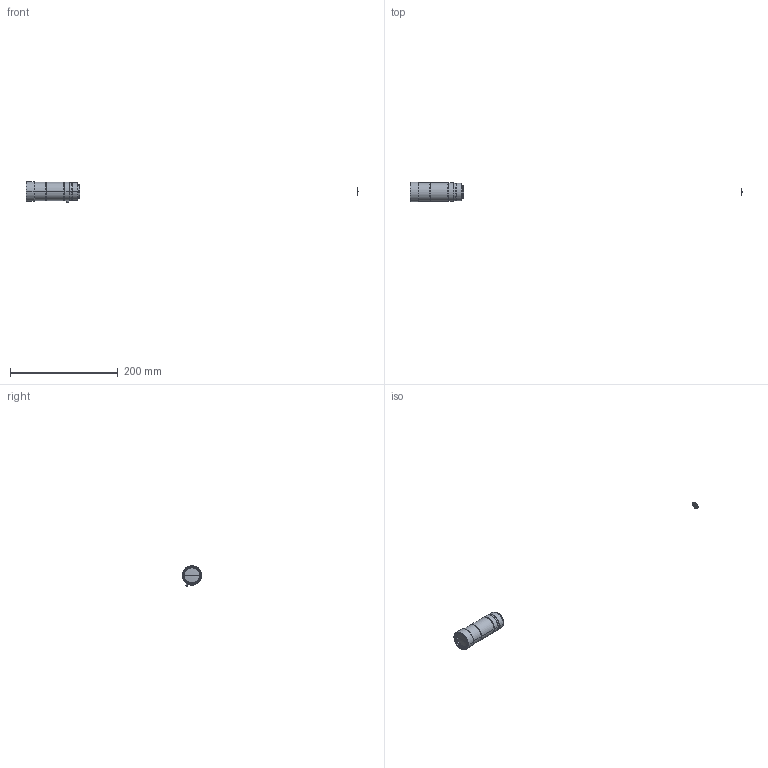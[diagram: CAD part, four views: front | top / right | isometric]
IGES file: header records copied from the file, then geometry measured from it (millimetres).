
Start section: SolidWorks IGES file using analytic representation for surfaces
Global section: file name: C:\Users\tsuji_vst\Documents\【図面】\_3D\00 VST\VS-TCT\TCT08-65\VS-TCT08-65.IGS; native system: SolidWorks 2016; preprocessor: SolidWorks 2016; author: tsuji_vst; date: 160830.161435; units: millimetre
Bounding box: 616.26 x 36.5 x 38.52 mm (x, y, z)
Surface area: 15032.9 mm2 (no closed solid volume)
Topology: 0 solids, 0 shells, 126 faces, 2096 edges, 2095 vertices
Faces by surface type: revolution 108, bspline 18
